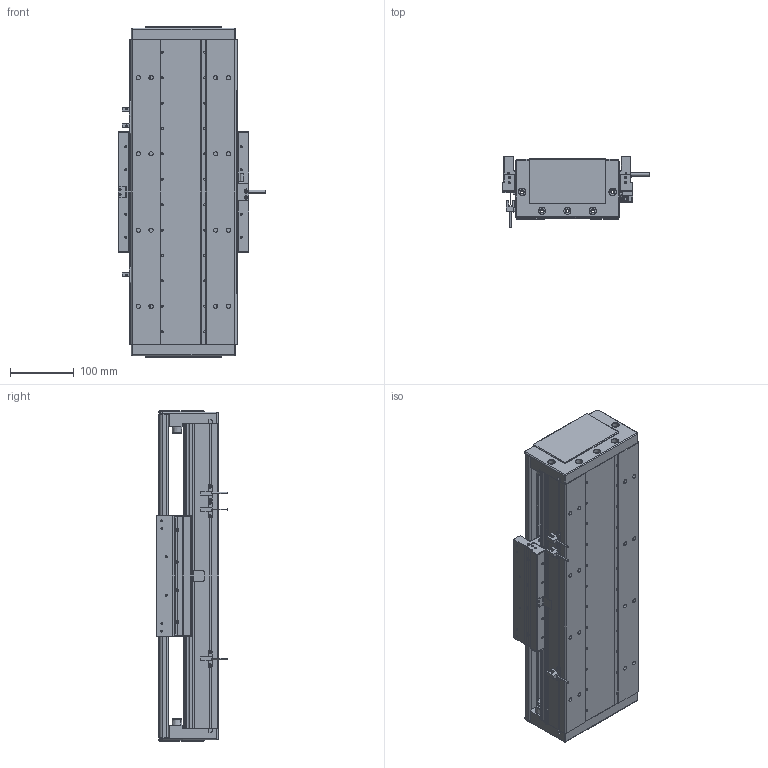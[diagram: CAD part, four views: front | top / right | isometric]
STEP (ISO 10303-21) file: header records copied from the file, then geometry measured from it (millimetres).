
FILE_DESCRIPTION (( 'STEP AP203' ), '1' );
FILE_NAME ('DA-C165-C2-T240-C010-0.2 直线电机.STEP', '2023-05-11T07:28:19', ( '微软用户' ), ( '微软中国' ), 'SwSTEP 2.0', 'SolidWorks 2019', '' );
FILE_SCHEMA (( 'CONFIG_CONTROL_DESIGN' ));
Length unit declared in the file: millimetre
Products named in the file (15): 葩璃 CKM01-W075-TRL^DA-C165-C2-T-C010-0.2-N 眻盄萇儂; 复件 六角薄螺母 M3^DA-C165-C2-T-C010-0.2-N 直线电机_GB_FASTENER_NUT_STNAB M3-C; 葩璃 PM-T45^DA-C165-C2-T-C010-0.2-N 眻盄萇儂; 复件 CKM02-W075-C1C2-TP-3.0 一体电机-C2^DA-C165-C2-T-C010-0.2-N 直线电机; 复件 XD-U-02L 磁栅尺^DA-C165-C2-T-C010-0.2-N 直线电机_T; IU-CU165-L 菁釱絳寢; 复件 DA165-GYP-00 光电感应片^DA-C165-C2-T-C010-0.2-N 直线电机; 复件 DA165-DG-H-N-00 端盖^DA-C165-C2-T-C010-0.2-N 直线电机; 复件 DA95-HXJ-00 缓冲橡胶^DA-C165-C2-T-C010-0.2-N 直线电机; 复件 DA165-T-002-00 盖板^DA-C165-C2-T-C010-0.2-N 直线电机_0840-002-00; IU-CU165-L-00 菁釱_L480; DA-C165-C2-T240-C010-0.2 眻盄萇儂; 葩璃 DA95-GT-T-00^IU-CU165-L 菁釱絳寢_T; 复件 DMA-010-0.2 读数头^DA-C165-C2-T-C010-0.2-N 直线电机; 珨极趙賑雄怢啣wf-C2
Assembly tree (28 placements, depth 3):
  DA-C165-C2-T240-C010-0.2 眻盄萇儂
    IU-CU165-L 菁釱絳寢
      IU-CU165-L-00 菁釱_L480
      葩璃 DA95-GT-T-00^IU-CU165-L 菁釱絳寢_T  x4
    复件 DA165-DG-H-N-00 端盖^DA-C165-C2-T-C010-0.2-N 直线电机  x2
    复件 DA95-HXJ-00 缓冲橡胶^DA-C165-C2-T-C010-0.2-N 直线电机  x4
    复件 DA165-T-002-00 盖板^DA-C165-C2-T-C010-0.2-N 直线电机_0840-002-00
    复件 XD-U-02L 磁栅尺^DA-C165-C2-T-C010-0.2-N 直线电机_T
    葩璃 PM-T45^DA-C165-C2-T-C010-0.2-N 眻盄萇儂  x3
    葩璃 CKM01-W075-TRL^DA-C165-C2-T-C010-0.2-N 眻盄萇儂
    复件 DA165-GYP-00 光电感应片^DA-C165-C2-T-C010-0.2-N 直线电机
    复件 DMA-010-0.2 读数头^DA-C165-C2-T-C010-0.2-N 直线电机
    复件 CKM02-W075-C1C2-TP-3.0 一体电机-C2^DA-C165-C2-T-C010-0.2-N 直线电机
    复件 六角薄螺母 M3^DA-C165-C2-T-C010-0.2-N 直线电机_GB_FASTENER_NUT_STNAB M3-C  x6
    珨极趙賑雄怢啣wf-C2
Bounding box: 233 x 111.45 x 520 mm (x, y, z)
Volume: 4827903.1 mm3; surface area: 1211967.3 mm2
Topology: 66 solids, 66 shells, 2800 faces, 7390 edges, 4593 vertices
Faces by surface type: cylinder 1295, plane 1041, cone 406, torus 54, sphere 4
Entity records: 78573 total; most frequent: CARTESIAN_POINT 16418, DIRECTION 12978, ORIENTED_EDGE 12254, EDGE_CURVE 6127, AXIS2_PLACEMENT_3D 4835, VERTEX_POINT 3929, LINE 3308, VECTOR 3308
